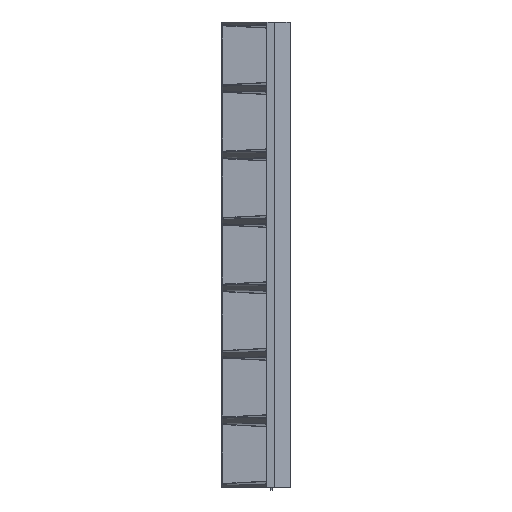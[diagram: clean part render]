
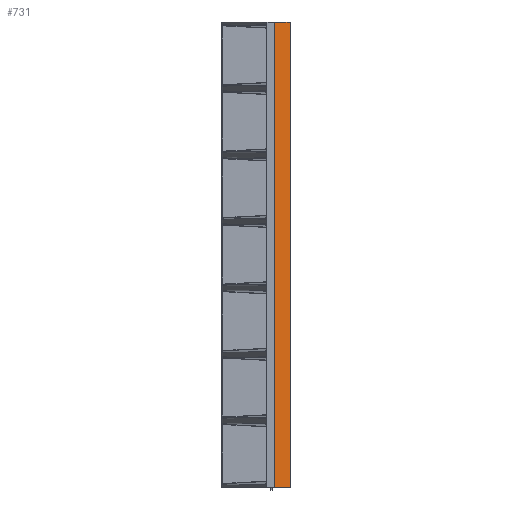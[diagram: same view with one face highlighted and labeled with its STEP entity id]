
A CAD part, left-side view. The second image highlights one B-rep face of the part: STEP entity #731.
In plain terms, the highlighted planar face has unit normal (-0.996, -0.087, 0).
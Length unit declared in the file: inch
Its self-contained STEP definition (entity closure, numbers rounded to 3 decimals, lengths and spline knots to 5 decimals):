
#694 = ORIENTED_EDGE ( 'NONE', *, *, #27504, .F. ) ;
#731 = ADVANCED_FACE ( 'NONE', ( #18845 ), #19349, .T. ) ;
#3067 = LINE ( 'NONE', #5429, #33332 ) ;
#5429 = CARTESIAN_POINT ( 'NONE',  ( -0.57063, -0.04992, 3. ) ) ;
#5685 = VECTOR ( 'NONE', #28132, 39.37008 ) ;
#5697 = DIRECTION ( 'NONE',  ( 0.087, -0.996, 0. ) ) ;
#6405 = VECTOR ( 'NONE', #8639, 39.37008 ) ;
#7024 = CARTESIAN_POINT ( 'NONE',  ( -0.5575, -0.2, 3. ) ) ;
#8639 = DIRECTION ( 'NONE',  ( 0., 0., 1. ) ) ;
#10073 = VERTEX_POINT ( 'NONE', #18849 ) ;
#10922 = DIRECTION ( 'NONE',  ( -0.996, -0.087, 0. ) ) ;
#11211 = EDGE_CURVE ( 'NONE', #10073, #13643, #27967, .T. ) ;
#12355 = ORIENTED_EDGE ( 'NONE', *, *, #29617, .F. ) ;
#13202 = VECTOR ( 'NONE', #31909, 39.37008 ) ;
#13341 = DIRECTION ( 'NONE',  ( 0.087, -0.996, 0. ) ) ;
#13643 = VERTEX_POINT ( 'NONE', #13893 ) ;
#13893 = CARTESIAN_POINT ( 'NONE',  ( -0.5575, -0.2, -3. ) ) ;
#14348 = CARTESIAN_POINT ( 'NONE',  ( -0.575, 0., -3. ) ) ;
#18845 = FACE_OUTER_BOUND ( 'NONE', #22229, .T. ) ;
#18849 = CARTESIAN_POINT ( 'NONE',  ( -0.5575, -0.2, 3. ) ) ;
#18936 = LINE ( 'NONE', #31809, #6405 ) ;
#19349 = PLANE ( 'NONE',  #28634 ) ;
#22229 = EDGE_LOOP ( 'NONE', ( #12355, #29174, #27480, #694 ) ) ;
#23951 = CARTESIAN_POINT ( 'NONE',  ( -0.57063, -0.04992, -3. ) ) ;
#26944 = CARTESIAN_POINT ( 'NONE',  ( -0.575, 0., 0. ) ) ;
#27480 = ORIENTED_EDGE ( 'NONE', *, *, #11211, .F. ) ;
#27504 = EDGE_CURVE ( 'NONE', #31851, #10073, #3067, .T. ) ;
#27967 = LINE ( 'NONE', #7024, #5685 ) ;
#28132 = DIRECTION ( 'NONE',  ( 0., 0., -1. ) ) ;
#28634 = AXIS2_PLACEMENT_3D ( 'NONE', #26944, #10922, #5697 ) ;
#29174 = ORIENTED_EDGE ( 'NONE', *, *, #32250, .T. ) ;
#29617 = EDGE_CURVE ( 'NONE', #32951, #31851, #18936, .T. ) ;
#31600 = CARTESIAN_POINT ( 'NONE',  ( -0.575, 0., 3. ) ) ;
#31747 = LINE ( 'NONE', #23951, #13202 ) ;
#31809 = CARTESIAN_POINT ( 'NONE',  ( -0.575, 0., 0. ) ) ;
#31851 = VERTEX_POINT ( 'NONE', #31600 ) ;
#31909 = DIRECTION ( 'NONE',  ( 0.087, -0.996, 0. ) ) ;
#32250 = EDGE_CURVE ( 'NONE', #32951, #13643, #31747, .T. ) ;
#32951 = VERTEX_POINT ( 'NONE', #14348 ) ;
#33332 = VECTOR ( 'NONE', #13341, 39.37008 ) ;
